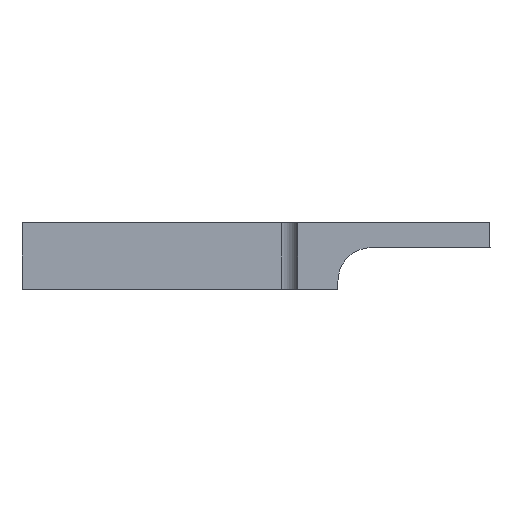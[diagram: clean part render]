
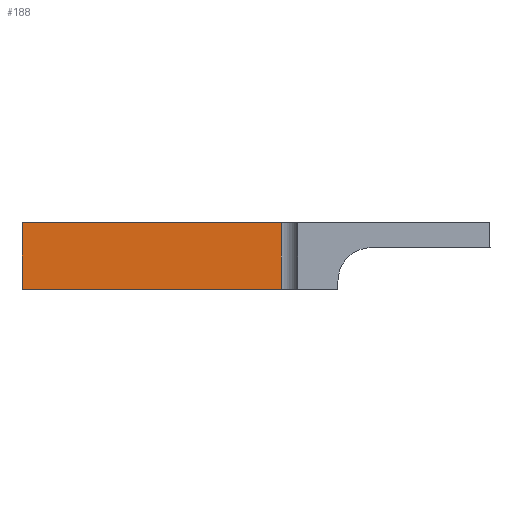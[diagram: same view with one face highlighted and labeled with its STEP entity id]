
A CAD part, front view. The second image highlights one B-rep face of the part: STEP entity #188.
In plain terms, the highlighted planar face has unit normal (0, -1, 0).
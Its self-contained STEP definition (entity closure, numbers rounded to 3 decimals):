
#188=ADVANCED_FACE('',(#235),#215,.F.);
#215=PLANE('',#849);
#235=FACE_OUTER_BOUND('',#284,.T.);
#284=EDGE_LOOP('',(#416,#417,#418,#419));
#416=ORIENTED_EDGE('',*,*,#598,.T.);
#417=ORIENTED_EDGE('',*,*,#655,.F.);
#418=ORIENTED_EDGE('',*,*,#615,.F.);
#419=ORIENTED_EDGE('',*,*,#656,.T.);
#525=VERTEX_POINT('',#1130);
#526=VERTEX_POINT('',#1132);
#541=VERTEX_POINT('',#1164);
#542=VERTEX_POINT('',#1166);
#598=EDGE_CURVE('',#526,#525,#694,.T.);
#615=EDGE_CURVE('',#541,#542,#701,.T.);
#655=EDGE_CURVE('',#542,#525,#716,.T.);
#656=EDGE_CURVE('',#541,#526,#717,.T.);
#694=LINE('',#1131,#753);
#701=LINE('',#1165,#760);
#716=LINE('',#1244,#775);
#717=LINE('',#1246,#776);
#753=VECTOR('',#908,1.);
#760=VECTOR('',#937,1.);
#775=VECTOR('',#1020,1.);
#776=VECTOR('',#1023,1.);
#849=AXIS2_PLACEMENT_3D('',#1247,#1024,#1025);
#908=DIRECTION('',(-1.,0.,0.));
#937=DIRECTION('',(-1.,0.,0.));
#1020=DIRECTION('',(0.,0.,1.));
#1023=DIRECTION('',(0.,0.,1.));
#1024=DIRECTION('',(0.,1.,0.));
#1025=DIRECTION('',(0.,0.,1.));
#1130=CARTESIAN_POINT('',(-123.,18.,2.));
#1131=CARTESIAN_POINT('',(-123.75,18.,2.));
#1132=CARTESIAN_POINT('',(-115.25,18.,2.));
#1164=CARTESIAN_POINT('',(-115.25,18.,0.));
#1165=CARTESIAN_POINT('',(-123.75,18.,0.));
#1166=CARTESIAN_POINT('',(-123.,18.,0.));
#1244=CARTESIAN_POINT('',(-123.,18.,-0.203));
#1246=CARTESIAN_POINT('',(-115.25,18.,-0.203));
#1247=CARTESIAN_POINT('',(-123.75,18.,-0.203));
